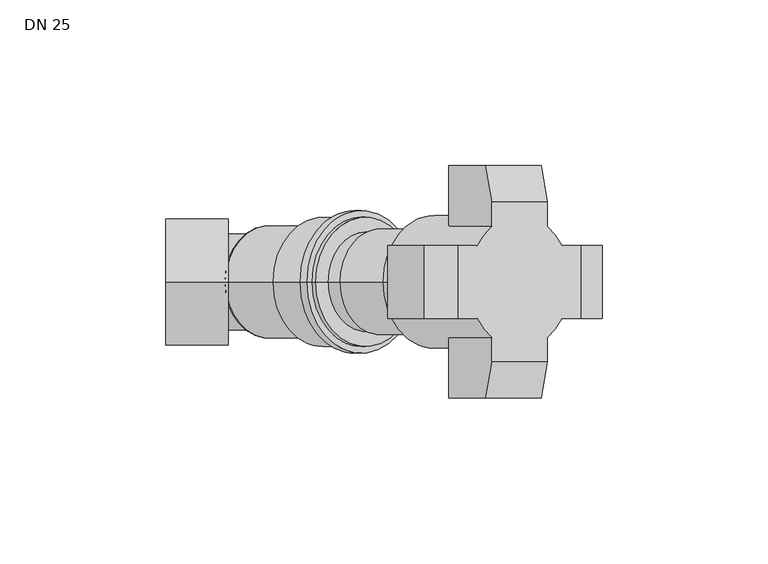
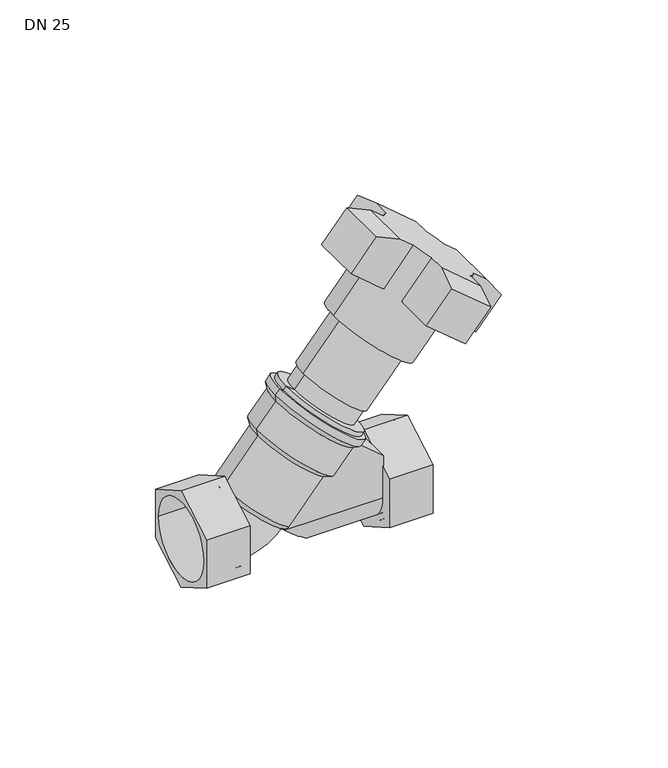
"""IFC4 building model written with IfcOpenShell, lengths in millimetres: valve geometry, 400_56_KOMF_VTR DN20-50 : DN 25."""

from ifc_helpers import new_model, si_unit, point, frame, origin, origin_2d, place, context, project, spatial, polyline, circle_curve, ellipse_curve, trimmed, segment, composite_curve, outline, extrude, source, transform, mapped, element, save
from ifc_brep_helpers import plane_surface, cylinder_surface, revolved_surface, advanced_brep


def dn_25_398dad07(model_context):
    return source(origin(), model_context, "Body", "SolidModel", [
        advanced_brep(
        [(-29.95, -19.0, 10.9696551), (-29.95, -19.0, -10.9696551), (-29.95, 0.0, -21.9393102), (-29.95, 19.0, -10.9696551), (-29.95, 19.0, 10.9696551), (-29.95, 0.0, 21.9393102), (-48.75, -19.0, 10.9696551), (-48.75, 0.0, 21.9393102), (-48.75, 19.0, 10.9696551), (-48.75, 19.0, -10.9696551), (-48.75, 0.0, -21.9393102), (-48.75, -19.0, -10.9696551), (-48.75, -16.85, 0.0), (-48.75, 16.85, 0.0), (-31.95, -16.85, 0.0), (-31.95, 16.85, 0.0)],
        [
            (0, 1),
            (1, 2),
            (2, 3),
            (3, 4),
            (4, 5),
            (5, 0),
            (6, 7),
            (7, 8),
            (8, 9),
            (9, 10),
            (10, 11),
            (11, 6),
            (12, 13, circle_curve(frame((-48.75, 0.0, 0.0), z_axis=(1.0, 0.0, 0.0), x_axis=(0.0, 1.0, 0.0)), 16.85)),
            (13, 12, circle_curve(frame((-48.75, 0.0, 0.0), z_axis=(1.0, 0.0, 0.0), x_axis=(0.0, 1.0, 0.0)), 16.85)),
            (0, 6),
            (11, 1),
            (10, 2),
            (9, 3),
            (8, 4),
            (7, 5),
            (14, 15, circle_curve(frame((-31.95, 0.0, 0.0), z_axis=(-1.0, 0.0, 0.0), x_axis=(0.0, 1.0, 0.0)), 16.85)),
            (15, 14, circle_curve(frame((-31.95, 0.0, 0.0), z_axis=(-1.0, 0.0, 0.0), x_axis=(0.0, 1.0, 0.0)), 16.85)),
            (15, 13),
            (12, 14),
        ],
        [
            plane_surface(frame((-29.95, -19.0, 10.9696551), z_axis=(1.0, 0.0, 0.0), x_axis=(0.0, 0.0, -1.0))),
            plane_surface(frame((-48.75, -19.0, 10.9696551), z_axis=(-1.0, 0.0, 0.0), x_axis=(0.0, 0.0, 1.0))),
            plane_surface(frame((-29.95, -19.0, 10.9696551), z_axis=(0.0, -1.0, 0.0), x_axis=(-1.0, 0.0, 0.0))),
            plane_surface(frame((-29.95, -19.0, -10.9696551), z_axis=(0.0, -0.5000000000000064, -0.866025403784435), x_axis=(-1.0, 0.0, 0.0))),
            plane_surface(frame((-29.95, 0.0, -21.9393102), z_axis=(0.0, 0.5000000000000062, -0.866025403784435), x_axis=(-1.0, 0.0, 0.0))),
            plane_surface(frame((-29.95, 19.0, -10.9696551), z_axis=(0.0, 1.0, 0.0), x_axis=(-1.0, 0.0, 0.0))),
            plane_surface(frame((-29.95, 19.0, 10.9696551), z_axis=(0.0, 0.5000000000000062, 0.866025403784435), x_axis=(-1.0, 0.0, 0.0))),
            plane_surface(frame((-29.95, 0.0, 21.9393102), z_axis=(0.0, -0.5000000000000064, 0.866025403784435), x_axis=(-1.0, 0.0, 0.0))),
            plane_surface(frame((-31.95, 16.85, 0.0), z_axis=(-1.0, 0.0, 0.0), x_axis=(0.0, 0.0, 1.0))),
            revolved_surface(polyline([(-31.95, 16.85, 0.0), (-48.75, 16.85, 0.0)]), (-48.75, 0.0, 0.0), (1.0, 0.0, 0.0)),
        ],
        [
            (0, [[1, 2, 3, 4, 5, 6]]),
            (1, [[7, 8, 9, 10, 11, 12], [13, 14]]),
            (2, [[-1, 15, -12, 16]]),
            (3, [[-2, -16, -11, 17]]),
            (4, [[-3, -17, -10, 18]]),
            (5, [[-4, -18, -9, 19]]),
            (6, [[-5, -19, -8, 20]]),
            (7, [[-6, -20, -7, -15]]),
            (8, [[21, 22]]),
            (9, [[-22, 23, -13, 24]]),
            (9, [[-21, -24, -14, -23]]),
        ],
    ),
        advanced_brep(
        [(48.75, -19.0, 10.9696551), (48.75, -19.0, -10.9696551), (48.75, 0.0, -21.9393102), (48.75, 19.0, -10.9696551), (48.75, 19.0, 10.9696551), (48.75, 0.0, 21.9393102), (48.75, 16.85, 0.0), (48.75, -16.85, 0.0), (29.95, -19.0, 10.9696551), (29.95, 0.0, 21.9393102), (29.95, 19.0, 10.9696551), (29.95, 19.0, -10.9696551), (29.95, 0.0, -21.9393102), (29.95, -19.0, -10.9696551), (31.95, -16.85, 0.0), (31.95, 16.85, 0.0)],
        [
            (0, 1),
            (1, 2),
            (2, 3),
            (3, 4),
            (4, 5),
            (5, 0),
            (6, 7, circle_curve(frame((48.75, 0.0, 0.0), z_axis=(-1.0, 0.0, 0.0), x_axis=(0.0, 1.0, 0.0)), 16.85)),
            (7, 6, circle_curve(frame((48.75, 0.0, 0.0), z_axis=(-1.0, 0.0, 0.0), x_axis=(0.0, 1.0, 0.0)), 16.85)),
            (8, 9),
            (9, 10),
            (10, 11),
            (11, 12),
            (12, 13),
            (13, 8),
            (0, 8),
            (13, 1),
            (12, 2),
            (11, 3),
            (10, 4),
            (9, 5),
            (14, 15, circle_curve(frame((31.95, 0.0, 0.0), z_axis=(1.0, 0.0, 0.0), x_axis=(0.0, 1.0, 0.0)), 16.85)),
            (15, 14, circle_curve(frame((31.95, 0.0, 0.0), z_axis=(1.0, 0.0, 0.0), x_axis=(0.0, 1.0, 0.0)), 16.85)),
            (14, 7),
            (6, 15),
        ],
        [
            plane_surface(frame((48.75, -19.0, 10.9696551), z_axis=(1.0, 0.0, 0.0), x_axis=(0.0, 0.0, -1.0))),
            plane_surface(frame((29.95, -19.0, 10.9696551), z_axis=(-1.0, 0.0, 0.0), x_axis=(0.0, 0.0, 1.0))),
            plane_surface(frame((48.75, -19.0, 10.9696551), z_axis=(0.0, -1.0, 0.0), x_axis=(-1.0, 0.0, 0.0))),
            plane_surface(frame((48.75, -19.0, -10.9696551), z_axis=(0.0, -0.5000000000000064, -0.866025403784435), x_axis=(-1.0, 0.0, 0.0))),
            plane_surface(frame((48.75, 0.0, -21.9393102), z_axis=(0.0, 0.5000000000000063, -0.866025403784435), x_axis=(-1.0, 0.0, 0.0))),
            plane_surface(frame((48.75, 19.0, -10.9696551), z_axis=(0.0, 1.0, 0.0), x_axis=(-1.0, 0.0, 0.0))),
            plane_surface(frame((48.75, 19.0, 10.9696551), z_axis=(0.0, 0.5000000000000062, 0.866025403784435), x_axis=(-1.0, 0.0, 0.0))),
            plane_surface(frame((48.75, 0.0, 21.9393102), z_axis=(0.0, -0.5000000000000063, 0.866025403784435), x_axis=(-1.0, 0.0, 0.0))),
            plane_surface(frame((31.95, 16.85, 0.0), z_axis=(1.0, 0.0, 0.0), x_axis=(0.0, 0.0, -1.0))),
            revolved_surface(polyline([(48.75, 16.85, 0.0), (31.95, 16.85, 0.0)]), (31.95, 0.0, 0.0), (1.0, 0.0, 0.0)),
        ],
        [
            (0, [[1, 2, 3, 4, 5, 6], [7, 8]]),
            (1, [[9, 10, 11, 12, 13, 14]]),
            (2, [[-1, 15, -14, 16]]),
            (3, [[-2, -16, -13, 17]]),
            (4, [[-3, -17, -12, 18]]),
            (5, [[-4, -18, -11, 19]]),
            (6, [[-5, -19, -10, 20]]),
            (7, [[-6, -20, -9, -15]]),
            (8, [[21, 22]]),
            (9, [[-21, 23, -7, 24]]),
            (9, [[-22, -24, -8, -23]]),
        ],
    ),
        extrude(outline(polyline([(14.5, 31.95), (27.0730431, 25.0736029), (39.6515796, 10.0830869), (0.0, 22.45), (0.0, 31.95), (14.5, 31.95)])), frame((0.0, -2.0, 0.0), z_axis=(0.0, 1.0, 0.0), x_axis=(0.0, 0.0, 1.0)), (0.0, 0.0, 1.0), 4.0),
        extrude(outline(composite_curve([segment(trimmed(circle_curve(origin_2d(), 16.85), [point((0.0, -16.85))], [point((0.0, 16.85))], False, "CARTESIAN"), True, "CONTINUOUS"), segment(trimmed(circle_curve(origin_2d(), 16.85), [point((0.0, 16.85))], [point((0.0, -16.85))], False, "CARTESIAN"), True, "CONTINUOUS")], self_intersect=False)), frame((29.95, 0.0, 0.0), z_axis=(1.0, 0.0, 0.0), x_axis=(0.0, 1.0, 0.0)), (0.0, 0.0, 1.0), 2.0),
        advanced_brep(
        [(11.3686621, 0.0, 41.1836685), (26.3065287, 0.0, 28.6493101), (-3.5692046, 0.0, 53.7180269), (-30.3330222, 0.0, 14.8213938), (-7.3516889, 0.0, -4.4622345), (-18.8423556, 0.0, 5.1795797), (-15.7954209, 0.0, 35.2580801), (10.2500902, 0.0, 13.4033014), (-4.5340248, 0.0, -4.2157208), (-30.5795359, 0.0, 17.6390579), (-16.4249568, 0.0, 38.397138), (13.4507765, 0.0, 13.3284212), (-8.0687178, 0.0, 48.3557158), (21.8070155, 0.0, 23.286999), (-8.3152315, 0.0, 51.1733799), (24.6246796, 0.0, 23.5335127), (-6.3868687, 0.0, 53.4715132), (26.5530424, 0.0, 25.831646), (-4.8547798, 0.0, 52.185938), (25.0209535, 0.0, 27.1172212)],
        [
            (0, 1),
            (1, 2, circle_curve(frame((11.3686621, 0.0, 41.1836685), z_axis=(0.6427876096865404, 0.0, 0.7660444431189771), x_axis=(0.7660444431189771, 0.0, -0.6427876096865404)), 19.5)),
            (2, 0),
            (2, 1, circle_curve(frame((11.3686621, 0.0, 41.1836685), z_axis=(0.6427876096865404, 0.0, 0.7660444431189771), x_axis=(0.7660444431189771, 0.0, -0.6427876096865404)), 19.5)),
            (3, 4, circle_curve(frame((-18.8423556, 0.0, 5.1795797), z_axis=(-0.6427876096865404, 0.0, -0.7660444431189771), x_axis=(0.7660444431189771, 0.0, -0.6427876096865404)), 15.0)),
            (4, 5),
            (5, 3),
            (4, 3, circle_curve(frame((-18.8423556, 0.0, 5.1795797), z_axis=(-0.6427876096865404, 0.0, -0.7660444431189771), x_axis=(0.7660444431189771, 0.0, -0.6427876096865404)), 15.0)),
            (6, 7, circle_curve(frame((-2.7726653, 0.0, 24.3306907), z_axis=(-0.6427876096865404, 0.0, -0.7660444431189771), x_axis=(0.7660444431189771, 0.0, -0.6427876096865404)), 17.0)),
            (7, 8),
            (8, 9, circle_curve(frame((-17.5567804, 0.0, 6.7116685), z_axis=(0.6427876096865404, 0.0, 0.7660444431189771), x_axis=(0.7660444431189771, 0.0, -0.6427876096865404)), 17.0)),
            (9, 6),
            (7, 6, circle_curve(frame((-2.7726653, 0.0, 24.3306907), z_axis=(-0.6427876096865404, 0.0, -0.7660444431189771), x_axis=(0.7660444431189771, 0.0, -0.6427876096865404)), 17.0)),
            (9, 8, circle_curve(frame((-17.5567804, 0.0, 6.7116685), z_axis=(0.6427876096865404, 0.0, 0.7660444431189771), x_axis=(0.7660444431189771, 0.0, -0.6427876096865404)), 17.0)),
            (10, 11, circle_curve(frame((-1.4870901, 0.0, 25.8627796), z_axis=(-0.6427876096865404, 0.0, -0.7660444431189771), x_axis=(0.7660444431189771, 0.0, -0.6427876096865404)), 19.5)),
            (11, 7),
            (6, 10),
            (11, 10, circle_curve(frame((-1.4870901, 0.0, 25.8627796), z_axis=(-0.6427876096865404, 0.0, -0.7660444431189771), x_axis=(0.7660444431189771, 0.0, -0.6427876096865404)), 19.5)),
            (12, 13, circle_curve(frame((6.8691488, 0.0, 35.8213574), z_axis=(-0.6427876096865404, 0.0, -0.7660444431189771), x_axis=(0.7660444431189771, 0.0, -0.6427876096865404)), 19.5)),
            (13, 11),
            (10, 12),
            (13, 12, circle_curve(frame((6.8691488, 0.0, 35.8213574), z_axis=(-0.6427876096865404, 0.0, -0.7660444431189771), x_axis=(0.7660444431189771, 0.0, -0.6427876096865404)), 19.5)),
            (14, 15, circle_curve(frame((8.154724, 0.0, 37.3534463), z_axis=(-0.6427876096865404, 0.0, -0.7660444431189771), x_axis=(0.7660444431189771, 0.0, -0.6427876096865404)), 21.5)),
            (15, 13),
            (12, 14),
            (15, 14, circle_curve(frame((8.154724, 0.0, 37.3534463), z_axis=(-0.6427876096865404, 0.0, -0.7660444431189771), x_axis=(0.7660444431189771, 0.0, -0.6427876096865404)), 21.5)),
            (16, 17, circle_curve(frame((10.0830869, 0.0, 39.6515796), z_axis=(-0.6427876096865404, 0.0, -0.7660444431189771), x_axis=(0.7660444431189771, 0.0, -0.6427876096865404)), 21.5)),
            (17, 15),
            (14, 16),
            (17, 16, circle_curve(frame((10.0830869, 0.0, 39.6515796), z_axis=(-0.6427876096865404, 0.0, -0.7660444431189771), x_axis=(0.7660444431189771, 0.0, -0.6427876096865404)), 21.5)),
            (18, 19, circle_curve(frame((10.0830869, 0.0, 39.6515796), z_axis=(-0.6427876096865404, 0.0, -0.7660444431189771), x_axis=(0.7660444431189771, 0.0, -0.6427876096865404)), 19.5)),
            (19, 17),
            (16, 18),
            (19, 18, circle_curve(frame((10.0830869, 0.0, 39.6515796), z_axis=(-0.6427876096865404, 0.0, -0.7660444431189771), x_axis=(0.7660444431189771, 0.0, -0.6427876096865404)), 19.5)),
            (1, 19),
            (18, 2),
            (8, 4, circle_curve(frame((-6.0661137, 0.0, -2.9301456), z_axis=(0.0, 1.0, 0.0), x_axis=(0.6427876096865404, 0.0, 0.7660444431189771)), 2.0)),
            (3, 9, circle_curve(frame((-29.047447, 0.0, 16.3534827), z_axis=(0.0, 1.0, 0.0), x_axis=(0.6427876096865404, 0.0, 0.7660444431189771)), 2.0)),
        ],
        [
            plane_surface(frame((11.3686621, 0.0, 41.1836685), z_axis=(0.6427876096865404, 0.0, 0.7660444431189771), x_axis=(0.7660444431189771, 0.0, -0.6427876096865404))),
            plane_surface(frame((-18.8423556, 0.0, 5.1795797), z_axis=(-0.6427876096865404, 0.0, -0.7660444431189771), x_axis=(0.7660444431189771, 0.0, -0.6427876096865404))),
            cylinder_surface(frame((-23.188539, 0.0, 0.0), z_axis=(0.6427876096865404, 0.0, 0.7660444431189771), x_axis=(0.7660444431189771, 0.0, -0.6427876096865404)), 17.0),
            revolved_surface(polyline([(10.2500902, 0.0, 13.4033014), (13.4507765, 0.0, 13.3284212)]), (-23.188539, 0.0, 0.0), (0.6427876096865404, 0.0, 0.7660444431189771)),
            cylinder_surface(frame((-23.188539, 0.0, 0.0), z_axis=(0.6427876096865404, 0.0, 0.7660444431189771), x_axis=(0.7660444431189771, 0.0, -0.6427876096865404)), 19.5),
            revolved_surface(polyline([(21.8070155, 0.0, 23.286999), (24.6246796, 0.0, 23.5335127)]), (-23.188539, 0.0, 0.0), (0.6427876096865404, 0.0, 0.7660444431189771)),
            cylinder_surface(frame((-23.188539, 0.0, 0.0), z_axis=(0.6427876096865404, 0.0, 0.7660444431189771), x_axis=(0.7660444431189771, 0.0, -0.6427876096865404)), 21.5),
            plane_surface(frame((10.0830869, 0.0, 39.6515796), z_axis=(0.6427876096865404, 0.0, 0.7660444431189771), x_axis=(0.7660444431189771, 0.0, -0.6427876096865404))),
            revolved_surface(trimmed(ellipse_curve(frame((-6.0661137, 0.0, -2.9301456), z_axis=(0.0, -1.0, 0.0), x_axis=(0.6427876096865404, 0.0, 0.7660444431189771)), 2.0, 2.0), [point((-7.3516889, 0.0, -4.4622345))], [point((-4.5340248, 0.0, -4.2157208))], True, "CARTESIAN"), (-23.188539, 0.0, 0.0), (0.6427876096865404, 0.0, 0.7660444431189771)),
        ],
        [
            (0, [[1, 2, 3]]),
            (0, [[-3, 4, -1]]),
            (1, [[5, 6, 7]]),
            (1, [[8, -7, -6]]),
            (2, [[9, 10, 11, 12]]),
            (2, [[13, -12, 14, -10]]),
            (3, [[15, 16, -9, 17]]),
            (3, [[18, -17, -13, -16]]),
            (4, [[19, 20, -15, 21]]),
            (4, [[22, -21, -18, -20]]),
            (5, [[23, 24, -19, 25]]),
            (5, [[26, -25, -22, -24]]),
            (6, [[27, 28, -23, 29]]),
            (6, [[30, -29, -26, -28]]),
            (7, [[31, 32, -27, 33]]),
            (7, [[34, -33, -30, -32]]),
            (4, [[-2, 35, -31, 36]]),
            (4, [[-4, -36, -34, -35]]),
            (8, [[-11, 37, -5, 38]]),
            (8, [[-14, -38, -8, -37]]),
        ],
    ),
        advanced_brep(
        [(4.5147563, 0.0, 56.351359), (27.4960896, 0.0, 37.0677307), (22.8593287, 0.0, 31.5418543), (-0.1220046, 0.0, 50.8254826), (3.7487118, 0.0, 56.9941466), (28.262134, 0.0, 36.4249431), (19.8184021, 0.0, 76.1452577), (44.3318242, 0.0, 55.5760542), (16.7542243, 0.0, 78.7164081), (47.396002, 0.0, 53.0049037), (29.6099765, 0.0, 94.037297), (32.1354005, 11.0, 91.9182146), (44.9911527, 11.0, 107.2391035), (49.3601287, 16.7032931, 103.5730974), (36.5043765, 16.7032931, 88.2522085), (53.3573542, 16.7032931, 74.1108811), (66.2131064, 16.7032931, 89.43177), (70.5820824, 11.0, 85.7657638), (57.7263302, 11.0, 70.444875), (60.2517542, 0.0, 68.3257926), (57.7263302, -11.0, 70.444875), (70.5820824, -11.0, 85.7657638), (66.2131064, -16.7032931, 89.43177), (53.3573542, -16.7032931, 74.1108811), (36.5043765, -16.7032931, 88.2522085), (49.3601287, -16.7032931, 103.5730974), (44.9911527, -11.0, 107.2391035), (32.1354005, -11.0, 91.9182146), (76.1716842, -11.0, 81.075531), (76.1716842, 11.0, 81.075531), (66.2131064, 24.0, 89.43177), (49.3601287, 24.0, 103.5730974), (39.4015509, 11.0, 111.9293363), (39.4015509, -11.0, 111.9293363), (49.3601287, -24.0, 103.5730974), (66.2131064, -24.0, 89.43177), (11.3686621, 0.0, 41.1836685), (29.0466992, -11.0, 116.7018667), (18.1193098, -11.0, 103.6791111), (71.7424209, -11.0, 58.6839785), (82.6698102, -11.0, 71.706734), (82.6698102, 11.0, 71.706734), (71.7424209, 11.0, 58.6839785), (18.1193098, 11.0, 103.6791111), (29.0466992, 11.0, 116.7018667), (53.3573542, 35.0, 74.1108811), (64.2847436, 35.0, 87.1336366), (64.2847436, -35.0, 87.1336366), (53.3573542, -35.0, 74.1108811), (36.5043765, -35.0, 88.2522085), (47.4317658, -35.0, 101.274964), (47.4317658, 35.0, 101.274964), (36.5043765, 35.0, 88.2522085)],
        [
            (0, 1, circle_curve(frame((16.0054229, 0.0, 46.7095449), z_axis=(-0.6427876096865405, 0.0, -0.7660444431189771), x_axis=(0.7660444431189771, 0.0, -0.6427876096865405)), 15.0)),
            (1, 2),
            (2, 3, circle_curve(frame((11.3686621, 0.0, 41.1836685), z_axis=(0.6427876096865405, 0.0, 0.7660444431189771), x_axis=(0.7660444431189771, 0.0, -0.6427876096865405)), 15.0)),
            (3, 0),
            (1, 0, circle_curve(frame((16.0054229, 0.0, 46.7095449), z_axis=(-0.6427876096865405, 0.0, -0.7660444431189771), x_axis=(0.7660444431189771, 0.0, -0.6427876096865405)), 15.0)),
            (3, 2, circle_curve(frame((11.3686621, 0.0, 41.1836685), z_axis=(0.6427876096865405, 0.0, 0.7660444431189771), x_axis=(0.7660444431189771, 0.0, -0.6427876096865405)), 15.0)),
            (0, 4),
            (4, 5, circle_curve(frame((16.0054229, 0.0, 46.7095449), z_axis=(-0.6427876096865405, 0.0, -0.7660444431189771), x_axis=(0.7660444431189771, 0.0, -0.6427876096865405)), 16.0)),
            (5, 1),
            (5, 4, circle_curve(frame((16.0054229, 0.0, 46.7095449), z_axis=(-0.6427876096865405, 0.0, -0.7660444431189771), x_axis=(0.7660444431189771, 0.0, -0.6427876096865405)), 16.0)),
            (4, 6),
            (6, 7, circle_curve(frame((32.0751131, 0.0, 65.8606559), z_axis=(-0.6427876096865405, 0.0, -0.7660444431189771), x_axis=(0.7660444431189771, 0.0, -0.6427876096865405)), 16.0)),
            (7, 5),
            (7, 6, circle_curve(frame((32.0751131, 0.0, 65.8606559), z_axis=(-0.6427876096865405, 0.0, -0.7660444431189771), x_axis=(0.7660444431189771, 0.0, -0.6427876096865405)), 16.0)),
            (6, 8),
            (8, 9, circle_curve(frame((32.0751131, 0.0, 65.8606559), z_axis=(-0.6427876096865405, 0.0, -0.7660444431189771), x_axis=(0.7660444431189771, 0.0, -0.6427876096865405)), 20.0)),
            (9, 7),
            (9, 8, circle_curve(frame((32.0751131, 0.0, 65.8606559), z_axis=(-0.6427876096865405, 0.0, -0.7660444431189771), x_axis=(0.7660444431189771, 0.0, -0.6427876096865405)), 20.0)),
            (8, 10),
            (10, 11, circle_curve(frame((44.9308653, 0.0, 81.1815448), z_axis=(-0.6427876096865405, 0.0, -0.7660444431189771), x_axis=(0.7660444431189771, 0.0, -0.6427876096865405)), 20.0)),
            (11, 12),
            (12, 13, circle_curve(frame((57.7866175, 0.0, 96.5024337), z_axis=(-0.6427876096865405, 0.0, -0.7660444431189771), x_axis=(0.7660444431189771, 0.0, -0.6427876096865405)), 20.0)),
            (13, 14),
            (14, 15, circle_curve(frame((44.9308653, 0.0, 81.1815448), z_axis=(-0.6427876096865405, 0.0, -0.7660444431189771), x_axis=(0.7660444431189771, 0.0, -0.6427876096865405)), 20.0)),
            (15, 16),
            (16, 17, circle_curve(frame((57.7866175, 0.0, 96.5024337), z_axis=(-0.6427876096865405, 0.0, -0.7660444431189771), x_axis=(0.7660444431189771, 0.0, -0.6427876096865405)), 20.0)),
            (17, 18),
            (18, 19, circle_curve(frame((44.9308653, 0.0, 81.1815448), z_axis=(-0.6427876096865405, 0.0, -0.7660444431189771), x_axis=(0.7660444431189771, 0.0, -0.6427876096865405)), 20.0)),
            (19, 9),
            (19, 20, circle_curve(frame((44.9308653, 0.0, 81.1815448), z_axis=(-0.6427876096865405, 0.0, -0.7660444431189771), x_axis=(0.7660444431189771, 0.0, -0.6427876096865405)), 20.0)),
            (20, 21),
            (21, 22, circle_curve(frame((57.7866175, 0.0, 96.5024337), z_axis=(-0.6427876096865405, 0.0, -0.7660444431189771), x_axis=(0.7660444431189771, 0.0, -0.6427876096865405)), 20.0)),
            (22, 23),
            (23, 24, circle_curve(frame((44.9308653, 0.0, 81.1815448), z_axis=(-0.6427876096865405, 0.0, -0.7660444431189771), x_axis=(0.7660444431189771, 0.0, -0.6427876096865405)), 20.0)),
            (24, 25),
            (25, 26, circle_curve(frame((57.7866175, 0.0, 96.5024337), z_axis=(-0.6427876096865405, 0.0, -0.7660444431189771), x_axis=(0.7660444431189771, 0.0, -0.6427876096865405)), 20.0)),
            (26, 27),
            (27, 10, circle_curve(frame((44.9308653, 0.0, 81.1815448), z_axis=(-0.6427876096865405, 0.0, -0.7660444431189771), x_axis=(0.7660444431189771, 0.0, -0.6427876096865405)), 20.0)),
            (28, 29),
            (29, 17),
            (16, 30),
            (30, 31),
            (31, 13),
            (12, 32),
            (32, 33),
            (33, 26),
            (25, 34),
            (34, 35),
            (35, 22),
            (21, 28),
            (2, 36),
            (36, 3),
            (33, 37),
            (37, 38),
            (38, 27),
            (39, 40),
            (40, 28),
            (20, 39),
            (29, 41),
            (41, 42),
            (42, 18),
            (43, 44),
            (44, 32),
            (11, 43),
            (44, 37),
            (43, 38),
            (42, 39),
            (41, 40),
            (45, 46),
            (46, 30),
            (15, 45),
            (35, 47),
            (47, 48),
            (48, 23),
            (49, 50),
            (50, 34),
            (24, 49),
            (31, 51),
            (51, 52),
            (52, 14),
            (45, 52),
            (51, 46),
            (50, 47),
            (49, 48),
        ],
        [
            cylinder_surface(frame((-23.188539, 0.0, 0.0), z_axis=(0.6427876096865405, 0.0, 0.7660444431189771), x_axis=(0.7660444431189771, 0.0, -0.6427876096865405)), 15.0),
            plane_surface(frame((16.0054229, 0.0, 46.7095449), z_axis=(-0.6427876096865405, 0.0, -0.7660444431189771), x_axis=(0.7660444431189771, 0.0, -0.6427876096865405))),
            cylinder_surface(frame((-23.188539, 0.0, 0.0), z_axis=(0.6427876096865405, 0.0, 0.7660444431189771), x_axis=(0.7660444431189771, 0.0, -0.6427876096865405)), 16.0),
            plane_surface(frame((32.0751131, 0.0, 65.8606559), z_axis=(-0.6427876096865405, 0.0, -0.7660444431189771), x_axis=(0.7660444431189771, 0.0, -0.6427876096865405))),
            cylinder_surface(frame((-23.188539, 0.0, 0.0), z_axis=(0.6427876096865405, 0.0, 0.7660444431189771), x_axis=(0.7660444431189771, 0.0, -0.6427876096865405)), 20.0),
            plane_surface(frame((57.7866175, 0.0, 96.5024337), z_axis=(0.6427876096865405, 0.0, 0.7660444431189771), x_axis=(0.7660444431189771, 0.0, -0.6427876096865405))),
            plane_surface(frame((11.3686621, 0.0, 41.1836685), z_axis=(-0.6427876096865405, 0.0, -0.7660444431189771), x_axis=(0.7660444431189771, 0.0, -0.6427876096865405))),
            plane_surface(frame((39.4015509, -11.0, 111.9293363), z_axis=(0.0, -1.0, 0.0), x_axis=(-0.7660444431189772, 0.0, 0.6427876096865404))),
            plane_surface(frame((39.4015509, 11.0, 111.9293363), z_axis=(0.0, 1.0, 0.0), x_axis=(0.7660444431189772, 0.0, -0.6427876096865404))),
            plane_surface(frame((39.4015509, -11.0, 111.9293363), z_axis=(0.4185786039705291, 0.0, 0.9081805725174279), x_axis=(0.0, 1.0, 0.0))),
            plane_surface(frame((29.0466992, -11.0, 116.7018667), z_axis=(-0.7660444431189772, 0.0, 0.6427876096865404), x_axis=(0.0, 1.0, 0.0))),
            plane_surface(frame((18.1193098, -11.0, 103.6791111), z_axis=(-0.6427876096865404, 0.0, -0.7660444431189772), x_axis=(0.0, 1.0, 0.0))),
            plane_surface(frame((71.7424209, -11.0, 58.6839785), z_axis=(0.7660444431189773, 0.0, -0.6427876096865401), x_axis=(0.0, 1.0, 0.0))),
            plane_surface(frame((82.6698102, -11.0, 71.706734), z_axis=(0.8216978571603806, 0.0, 0.5699233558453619), x_axis=(0.0, 1.0, 0.0))),
            plane_surface(frame((64.2847436, 35.0, 87.1336366), z_axis=(0.7660444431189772, 0.0, -0.6427876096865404), x_axis=(0.6427876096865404, 0.0, 0.7660444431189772))),
            plane_surface(frame((47.4317658, 35.0, 101.274964), z_axis=(-0.7660444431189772, 0.0, 0.6427876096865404), x_axis=(-0.6427876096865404, 0.0, -0.7660444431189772))),
            plane_surface(frame((53.3573542, 35.0, 74.1108811), z_axis=(0.0, 1.0000000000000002, 0.0), x_axis=(-0.7660444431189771, 0.0, 0.6427876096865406))),
            plane_surface(frame((64.2847436, 35.0, 87.1336366), z_axis=(0.6201382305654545, 0.26311740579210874, 0.7390519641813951), x_axis=(-0.7660444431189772, 0.0, 0.6427876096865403))),
            plane_surface(frame((66.2131064, -24.0, 89.43177), z_axis=(0.6201382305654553, -0.2631174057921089, 0.7390519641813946), x_axis=(-0.7660444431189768, 0.0, 0.642787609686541))),
            plane_surface(frame((64.2847436, -35.0, 87.1336366), z_axis=(0.0, -1.0, 0.0), x_axis=(-0.7660444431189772, 0.0, 0.6427876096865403))),
            plane_surface(frame((53.3573542, -35.0, 74.1108811), z_axis=(-0.6427876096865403, 0.0, -0.7660444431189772), x_axis=(-0.7660444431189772, 0.0, 0.6427876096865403))),
        ],
        [
            (0, [[1, 2, 3, 4]]),
            (0, [[-2, 5, -4, 6]]),
            (1, [[-1, 7, 8, 9]]),
            (1, [[-5, -9, 10, -7]]),
            (2, [[-8, 11, 12, 13]]),
            (2, [[-10, -13, 14, -11]]),
            (3, [[-12, 15, 16, 17]]),
            (3, [[-14, -17, 18, -15]]),
            (4, [[-16, 19, 20, 21, 22, 23, 24, 25, 26, 27, 28, 29]]),
            (4, [[-18, -29, 30, 31, 32, 33, 34, 35, 36, 37, 38, -19]]),
            (5, [[39, 40, -26, 41, 42, 43, -22, 44, 45, 46, -36, 47, 48, 49, -32, 50]]),
            (6, [[-3, 51, 52]]),
            (6, [[-6, -52, -51]]),
            (7, [[53, 54, 55, -37, -46]]),
            (7, [[56, 57, -50, -31, 58]]),
            (8, [[59, 60, 61, -27, -40]]),
            (8, [[62, 63, -44, -21, 64]]),
            (9, [[-53, -45, -63, 65]]),
            (10, [[-54, -65, -62, 66]]),
            (11, [[-66, -64, -20, -38, -55]]),
            (11, [[67, -58, -30, -28, -61]]),
            (12, [[-56, -67, -60, 68]]),
            (13, [[-57, -68, -59, -39]]),
            (14, [[69, 70, -41, -25, 71]]),
            (14, [[72, 73, 74, -33, -49]]),
            (15, [[75, 76, -47, -35, 77]]),
            (15, [[78, 79, 80, -23, -43]]),
            (16, [[-69, 81, -79, 82]]),
            (17, [[-70, -82, -78, -42]]),
            (18, [[-72, -48, -76, 83]]),
            (19, [[-73, -83, -75, 84]]),
            (20, [[-81, -71, -24, -80]]),
            (20, [[-84, -77, -34, -74]]),
        ],
    ),
        extrude(outline(composite_curve([segment(trimmed(circle_curve(origin_2d(), 16.85), [point((0.0, -16.85))], [point((0.0, 16.85))], False, "CARTESIAN"), True, "CONTINUOUS"), segment(trimmed(circle_curve(origin_2d(), 16.85), [point((0.0, 16.85))], [point((0.0, -16.85))], False, "CARTESIAN"), True, "CONTINUOUS")], self_intersect=False)), frame((-31.95, 0.0, 0.0), z_axis=(1.0, 0.0, 0.0), x_axis=(0.0, 1.0, 0.0)), (0.0, 0.0, 1.0), 2.0),
        advanced_brep(
        [(-29.95, 0.0, -14.5), (-29.95, 0.0, 14.5), (-7.7347111, 0.0, -4.1408407)],
        [
            (0, 1, circle_curve(frame((-29.95, 0.0, 0.0), z_axis=(-1.0, 0.0, 0.0), x_axis=(0.0, 0.0, 1.0)), 14.5)),
            (1, 0, circle_curve(frame((-29.95, 0.0, 0.0), z_axis=(-1.0, 0.0, 0.0), x_axis=(0.0, 0.0, 1.0)), 14.5)),
            (2, 1, circle_curve(frame((-18.8423556, 0.0, 5.1795797), z_axis=(0.6427876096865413, 0.0, 0.7660444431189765), x_axis=(-0.7660444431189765, 0.0, 0.6427876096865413)), 14.5)),
            (1, 2, circle_curve(frame((-18.8423556, 0.0, 5.1795797), z_axis=(0.6427876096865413, 0.0, 0.7660444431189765), x_axis=(-0.7660444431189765, 0.0, 0.6427876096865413)), 14.5)),
            (2, 0, circle_curve(frame((-29.95, 0.0, 14.5), z_axis=(0.0, 1.0, 0.0), x_axis=(0.0, 0.0, -1.0)), 29.0)),
        ],
        [
            plane_surface(frame((-29.95, 1422.6039728, 14.5), z_axis=(-1.0, 0.0, 0.0), x_axis=(0.0, 0.0, -1.0))),
            plane_surface(frame((-29.95, 1422.6039728, 14.5), z_axis=(0.6427876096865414, 0.0, 0.7660444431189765), x_axis=(0.7660444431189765, 0.0, -0.6427876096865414))),
            revolved_surface(trimmed(ellipse_curve(frame((-29.95, 0.0, 0.0), z_axis=(1.0, 0.0, 0.0), x_axis=(0.0, 0.0, 1.0)), 14.5, 14.5), [point((-29.95, 0.0, -14.5))], [point((-29.95, 0.0, 14.5))], True, "CARTESIAN"), (-29.95, 1422.6039728, 14.5), (0.0, 1.0, 0.0)),
            revolved_surface(trimmed(ellipse_curve(frame((-29.95, 0.0, 0.0), z_axis=(1.0, 0.0, 0.0), x_axis=(0.0, 0.0, 1.0)), 14.5, 14.5), [point((-29.95, 0.0, 14.5))], [point((-29.95, 0.0, -14.5))], True, "CARTESIAN"), (-29.95, 1422.6039728, 14.5), (0.0, 1.0, 0.0)),
        ],
        [
            (0, [[1, 2]]),
            (1, [[3, 4]]),
            (2, [[5, -2, -3]]),
            (3, [[-1, -5, -4]]),
        ],
    ),
        advanced_brep(
        [(31.95, -14.5, 0.0), (31.95, 14.5, 0.0), (29.95, -14.5, 0.0), (-12.6695729, -14.5, 0.0), (-12.6695729, 14.5, 0.0), (29.95, 14.5, 0.0), (-18.8423556, 13.5433362, 5.1795797), (-18.8423556, -13.5433362, 5.1795797), (-18.8423556, -14.5, 5.1795797), (-18.8423556, 14.5, 5.1795797), (29.95, -14.5, 19.0650382), (8.154724, -14.5, 37.3534463), (29.95, 14.5, 19.0650382), (8.154724, 14.5, 37.3534463)],
        [
            (0, 1, circle_curve(frame((31.95, 0.0, 0.0), z_axis=(1.0, 0.0, 0.0), x_axis=(0.0, 1.0, 0.0)), 14.5)),
            (1, 0, circle_curve(frame((31.95, 0.0, 0.0), z_axis=(1.0, 0.0, 0.0), x_axis=(0.0, 1.0, 0.0)), 14.5)),
            (0, 2),
            (2, 3),
            (3, 4, ellipse_curve(frame((-12.6695729, 0.0, 0.0), z_axis=(0.6427876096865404, 0.0, 0.7660444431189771), x_axis=(0.7660444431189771, 0.0, -0.6427876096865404)), 22.5579955, 14.5)),
            (4, 5),
            (5, 1),
            (5, 2, circle_curve(frame((29.95, 0.0, 0.0), z_axis=(1.0, 0.0, 0.0), x_axis=(0.0, 1.0, 0.0)), 14.5)),
            (6, 7, ellipse_curve(frame((-12.6695729, 0.0, 0.0), z_axis=(0.6427876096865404, 0.0, 0.7660444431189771), x_axis=(0.7660444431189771, 0.0, -0.6427876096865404)), 22.5579955, 14.5)),
            (7, 6, ellipse_curve(frame((-23.188539, 0.0, 0.0), z_axis=(-0.7660444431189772, 0.0, 0.6427876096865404), x_axis=(0.6427876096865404, 0.0, 0.7660444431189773)), 18.9284057, 14.5)),
            (3, 8),
            (8, 7),
            (6, 9),
            (9, 4),
            (10, 11),
            (11, 8),
            (2, 10),
            (12, 5),
            (9, 13),
            (13, 12),
            (10, 12),
            (13, 11),
        ],
        [
            plane_surface(frame((31.95, 14.5, 0.0), z_axis=(1.0, 0.0, 0.0), x_axis=(0.0, 0.0, 1.0))),
            cylinder_surface(frame((-31.95, 0.0, 0.0), z_axis=(1.0, 0.0, 0.0), x_axis=(0.0, 1.0, 0.0)), 14.5),
            plane_surface(frame((-18.8423556, 0.0, 5.1795797), z_axis=(-0.6427876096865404, 0.0, -0.7660444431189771), x_axis=(0.7660444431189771, 0.0, -0.6427876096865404))),
            plane_surface(frame((8.154724, -14.5, 37.3534463), z_axis=(0.0, -1.0, 0.0), x_axis=(-0.7660444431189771, 0.0, 0.6427876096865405))),
            plane_surface(frame((8.154724, 14.5, 37.3534463), z_axis=(0.0, 1.0, 0.0), x_axis=(0.7660444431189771, 0.0, -0.6427876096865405))),
            plane_surface(frame((29.95, -14.5, 19.0650382), z_axis=(0.6427876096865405, 0.0, 0.7660444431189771), x_axis=(0.0, 1.0, 0.0))),
            plane_surface(frame((8.154724, -14.5, 37.3534463), z_axis=(-0.7660444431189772, 0.0, 0.6427876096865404), x_axis=(0.0, 1.0, 0.0))),
            plane_surface(frame((29.95, -14.5, 0.0), z_axis=(1.0, 0.0, 0.0), x_axis=(0.0, 1.0, 0.0))),
        ],
        [
            (0, [[1, 2]]),
            (1, [[-1, 3, 4, 5, 6, 7]]),
            (1, [[-2, -7, 8, -3]]),
            (1, [[9, 10]]),
            (2, [[11, 12, -9, 13, 14, -5]]),
            (3, [[15, 16, -11, -4, 17]]),
            (4, [[18, -6, -14, 19, 20]]),
            (5, [[-15, 21, -20, 22]]),
            (6, [[-16, -22, -19, -13, -10, -12]]),
            (7, [[-17, -8, -18, -21]]),
        ],
    ),
    ])


if __name__ == "__main__":
    model = new_model("IFC4")
    model_context = context("Model", 3, world=origin())
    ifc_project = project(units=[si_unit("LENGTHUNIT", "METRE", prefix="MILLI")], contexts=[model_context])
    site = spatial("IfcSite", under=ifc_project)
    building = spatial("IfcBuilding", under=site)
    placement = place(None, origin())
    dn_25_shape = dn_25_398dad07(model_context)
    element("IfcValve", 1, ObjectType="400_56_KOMF_VTR DN20-50 : DN 25", at=placement, inside=building, context=model_context, shape_type="MappedRepresentation", body=[
        mapped(dn_25_shape, transform((0.0, 0.0, 0.0), x_axis=(1.0, 0.0, 0.0), y_axis=(0.0, 1.0, 0.0), z_axis=(0.0, 0.0, 1.0))),
    ])
    save(model, "model.ifc")
